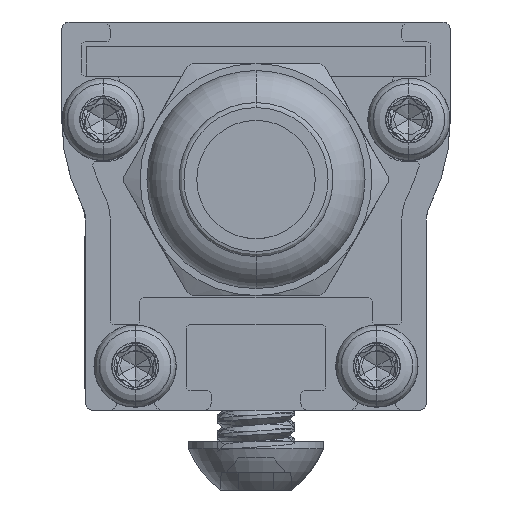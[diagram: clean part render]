
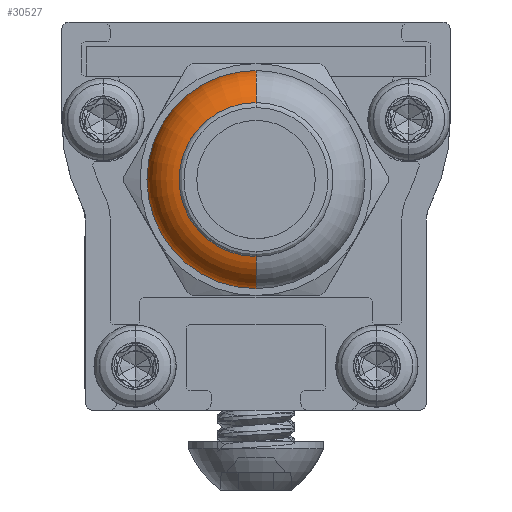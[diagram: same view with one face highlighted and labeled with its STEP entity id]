
A CAD part, left-side view. The second image highlights one B-rep face of the part: STEP entity #30527.
In plain terms, the highlighted toroidal (fillet/blend) face has major radius 3.518 mm and minor radius 2.095 mm.
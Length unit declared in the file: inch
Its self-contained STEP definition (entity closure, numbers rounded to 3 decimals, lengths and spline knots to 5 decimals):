
#1706 = DIRECTION ( 'NONE',  ( 0., 0., 1. ) ) ;
#2743 = CIRCLE ( 'NONE', #20206, 0.22102 ) ;
#2910 = CARTESIAN_POINT ( 'NONE',  ( -0.395, 0., -0.156 ) ) ;
#4038 = DIRECTION ( 'NONE',  ( -1., 0., 0. ) ) ;
#5705 = ORIENTED_EDGE ( 'NONE', *, *, #30669, .F. ) ;
#6871 = DIRECTION ( 'NONE',  ( 0., 0., 1. ) ) ;
#6933 = VERTEX_POINT ( 'NONE', #2910 ) ;
#7571 = DIRECTION ( 'NONE',  ( 0., -1., 0. ) ) ;
#8779 = DIRECTION ( 'NONE',  ( 0., 0., 1. ) ) ;
#9850 = CIRCLE ( 'NONE', #24758, 0.0825 ) ;
#10014 = CARTESIAN_POINT ( 'NONE',  ( -0.395, 0., 0. ) ) ;
#10118 = DIRECTION ( 'NONE',  ( 0., 0., 1. ) ) ;
#10150 = EDGE_CURVE ( 'NONE', #21917, #6933, #10610, .T. ) ;
#10610 = CIRCLE ( 'NONE', #13886, 0.0825 ) ;
#12542 = CARTESIAN_POINT ( 'NONE',  ( -0.31437, 0., 0.22102 ) ) ;
#13886 = AXIS2_PLACEMENT_3D ( 'NONE', #22964, #16020, #1706 ) ;
#14694 = DIRECTION ( 'NONE',  ( 0., 0., -1. ) ) ;
#15491 = ORIENTED_EDGE ( 'NONE', *, *, #26070, .F. ) ;
#16020 = DIRECTION ( 'NONE',  ( 0., 1., 0. ) ) ;
#16092 = AXIS2_PLACEMENT_3D ( 'NONE', #25642, #4038, #8779 ) ;
#17546 = TOROIDAL_SURFACE ( 'NONE', #16092, 0.13852, 0.0825 ) ;
#17662 = ORIENTED_EDGE ( 'NONE', *, *, #26411, .F. ) ;
#19438 = FACE_OUTER_BOUND ( 'NONE', #23232, .T. ) ;
#19483 = VERTEX_POINT ( 'NONE', #21522 ) ;
#20206 = AXIS2_PLACEMENT_3D ( 'NONE', #28120, #25917, #6871 ) ;
#20897 = AXIS2_PLACEMENT_3D ( 'NONE', #10014, #26633, #10118 ) ;
#20940 = CIRCLE ( 'NONE', #20897, 0.156 ) ;
#21522 = CARTESIAN_POINT ( 'NONE',  ( -0.395, 0., 0.156 ) ) ;
#21917 = VERTEX_POINT ( 'NONE', #22602 ) ;
#22602 = CARTESIAN_POINT ( 'NONE',  ( -0.31437, 0., -0.22102 ) ) ;
#22964 = CARTESIAN_POINT ( 'NONE',  ( -0.31437, 0., -0.13852 ) ) ;
#23232 = EDGE_LOOP ( 'NONE', ( #15491, #28684, #5705, #17662 ) ) ;
#24758 = AXIS2_PLACEMENT_3D ( 'NONE', #29211, #7571, #14694 ) ;
#25642 = CARTESIAN_POINT ( 'NONE',  ( -0.31437, 0., 0. ) ) ;
#25917 = DIRECTION ( 'NONE',  ( 1., 0., 0. ) ) ;
#26070 = EDGE_CURVE ( 'NONE', #21917, #28269, #2743, .T. ) ;
#26411 = EDGE_CURVE ( 'NONE', #28269, #19483, #9850, .T. ) ;
#26633 = DIRECTION ( 'NONE',  ( -1., 0., 0. ) ) ;
#28120 = CARTESIAN_POINT ( 'NONE',  ( -0.31437, 0., 0. ) ) ;
#28269 = VERTEX_POINT ( 'NONE', #12542 ) ;
#28684 = ORIENTED_EDGE ( 'NONE', *, *, #10150, .T. ) ;
#29211 = CARTESIAN_POINT ( 'NONE',  ( -0.31437, 0., 0.13852 ) ) ;
#30527 = ADVANCED_FACE ( 'NONE', ( #19438 ), #17546, .T. ) ;
#30669 = EDGE_CURVE ( 'NONE', #19483, #6933, #20940, .T. ) ;
